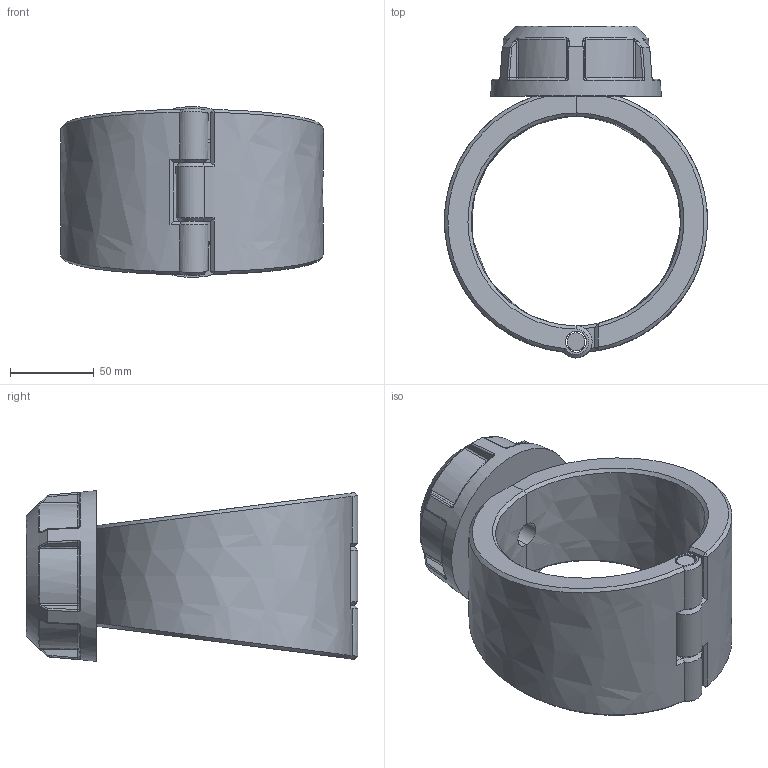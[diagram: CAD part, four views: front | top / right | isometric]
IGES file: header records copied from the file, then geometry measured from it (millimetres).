
Global section: file name: 163000125010; native system: Autodesk Inventor 2019; preprocessor: unknown; author: comp2; date: 20220203.115044; units: millimetre
Bounding box: 157 x 198 x 101.86 mm (x, y, z)
Volume: 784251.3 mm3; surface area: 123721.9 mm2
Topology: 4 solids, 4 shells, 203 faces, 486 edges, 293 vertices
Faces by surface type: bspline 203
